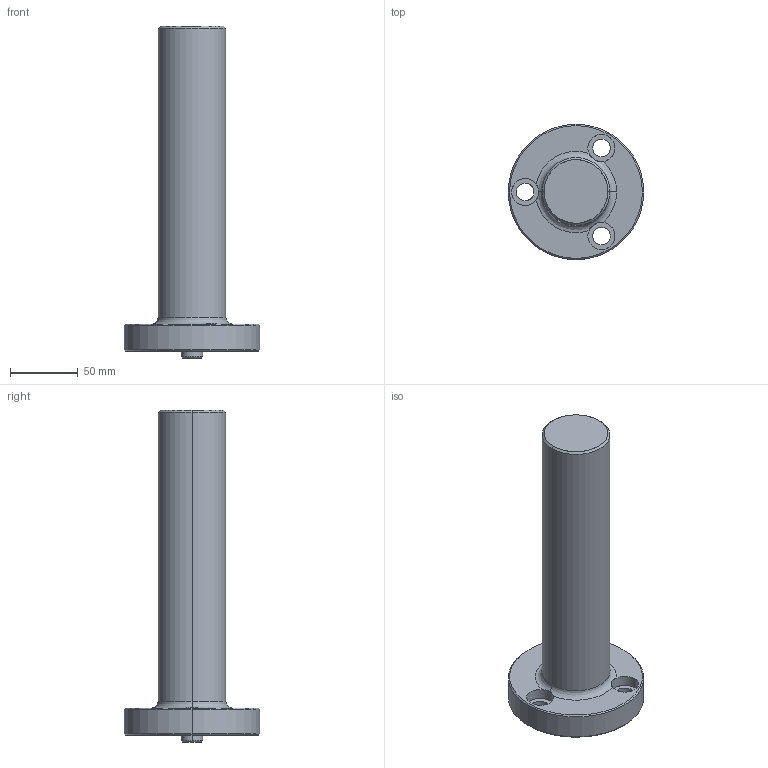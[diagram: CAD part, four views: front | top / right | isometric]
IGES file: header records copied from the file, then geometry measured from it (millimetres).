
Start section: START RECORD GO HERE.
Global section: file name: 721-00 + 240.igs; native system: DASSAULT SYSTEMES CATIA V5 R20 - www.3ds.com; preprocessor: CATIA Version 5 Release 20 ; author: Utente; organization: NB04-ASUS; date: 20201025.135836; units: millimetre
Bounding box: 100 x 100 x 245 mm (x, y, z)
Surface area: 58124.6 mm2 (no closed solid volume)
Topology: 0 solids, 0 shells, 35 faces, 164 edges, 164 vertices
Faces by surface type: revolution 28, plane 7
